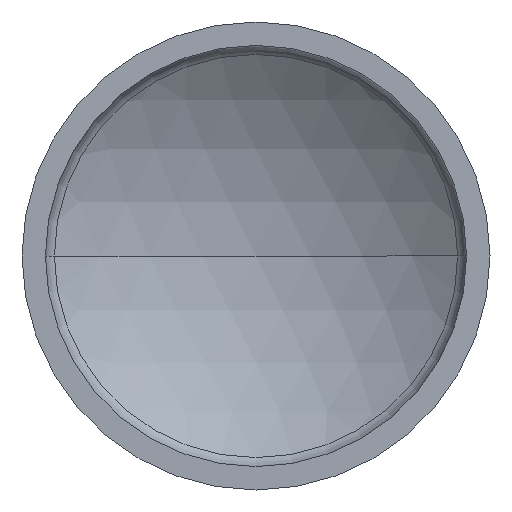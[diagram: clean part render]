
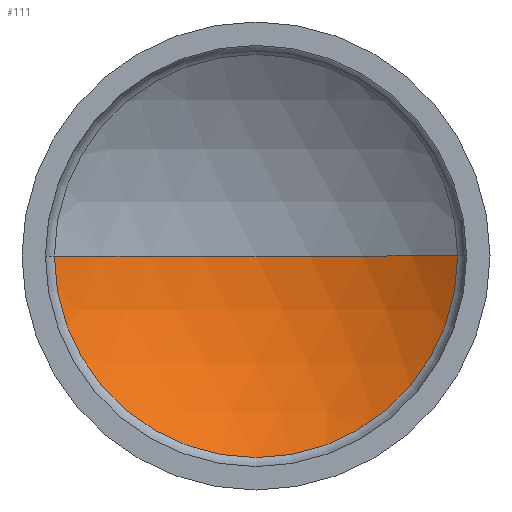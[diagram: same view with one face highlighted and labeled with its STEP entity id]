
A CAD part, front view. The second image highlights one B-rep face of the part: STEP entity #111.
In plain terms, the highlighted spherical face has radius 28 mm.
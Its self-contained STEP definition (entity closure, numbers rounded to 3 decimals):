
#1 = ORIENTED_EDGE ( 'NONE', *, *, #49, .F. ) ;
#6 = EDGE_CURVE ( 'NONE', #87, #11, #12, .T. ) ;
#11 = VERTEX_POINT ( 'NONE', #150 ) ;
#12 = CIRCLE ( 'NONE', #296, 28. ) ;
#16 = SPHERICAL_SURFACE ( 'NONE', #99, 28. ) ;
#49 = EDGE_CURVE ( 'NONE', #137, #11, #217, .T. ) ;
#55 = DIRECTION ( 'NONE',  ( -1., 0., 0. ) ) ;
#75 = ORIENTED_EDGE ( 'NONE', *, *, #115, .F. ) ;
#82 = DIRECTION ( 'NONE',  ( 1., 0., 0. ) ) ;
#87 = VERTEX_POINT ( 'NONE', #240 ) ;
#99 = AXIS2_PLACEMENT_3D ( 'NONE', #116, #396, #55 ) ;
#109 = DIRECTION ( 'NONE',  ( 0., 0., -1. ) ) ;
#111 = ADVANCED_FACE ( 'NONE', ( #263 ), #16, .F. ) ;
#112 = CARTESIAN_POINT ( 'NONE',  ( 0., 3.57, 0. ) ) ;
#115 = EDGE_CURVE ( 'NONE', #87, #137, #335, .T. ) ;
#116 = CARTESIAN_POINT ( 'NONE',  ( 0., -18.5, 0. ) ) ;
#137 = VERTEX_POINT ( 'NONE', #301 ) ;
#141 = CARTESIAN_POINT ( 'NONE',  ( 0., -18.5, 0. ) ) ;
#150 = CARTESIAN_POINT ( 'NONE',  ( 0., 9.5, 0. ) ) ;
#151 = AXIS2_PLACEMENT_3D ( 'NONE', #112, #236, #341 ) ;
#168 = ORIENTED_EDGE ( 'NONE', *, *, #6, .T. ) ;
#174 = CARTESIAN_POINT ( 'NONE',  ( 0., -18.5, 0. ) ) ;
#211 = EDGE_LOOP ( 'NONE', ( #75, #168, #1 ) ) ;
#213 = DIRECTION ( 'NONE',  ( -1., 0., 0. ) ) ;
#217 = CIRCLE ( 'NONE', #264, 28. ) ;
#236 = DIRECTION ( 'NONE',  ( 0., 1., 0. ) ) ;
#240 = CARTESIAN_POINT ( 'NONE',  ( 17.231, 3.57, 0. ) ) ;
#263 = FACE_OUTER_BOUND ( 'NONE', #211, .T. ) ;
#264 = AXIS2_PLACEMENT_3D ( 'NONE', #141, #109, #213 ) ;
#296 = AXIS2_PLACEMENT_3D ( 'NONE', #174, #394, #82 ) ;
#301 = CARTESIAN_POINT ( 'NONE',  ( -17.231, 3.57, 0. ) ) ;
#335 = CIRCLE ( 'NONE', #151, 17.231 ) ;
#341 = DIRECTION ( 'NONE',  ( -1., 0., 0. ) ) ;
#394 = DIRECTION ( 'NONE',  ( 0., 0., 1. ) ) ;
#396 = DIRECTION ( 'NONE',  ( 0., 0., 1. ) ) ;
